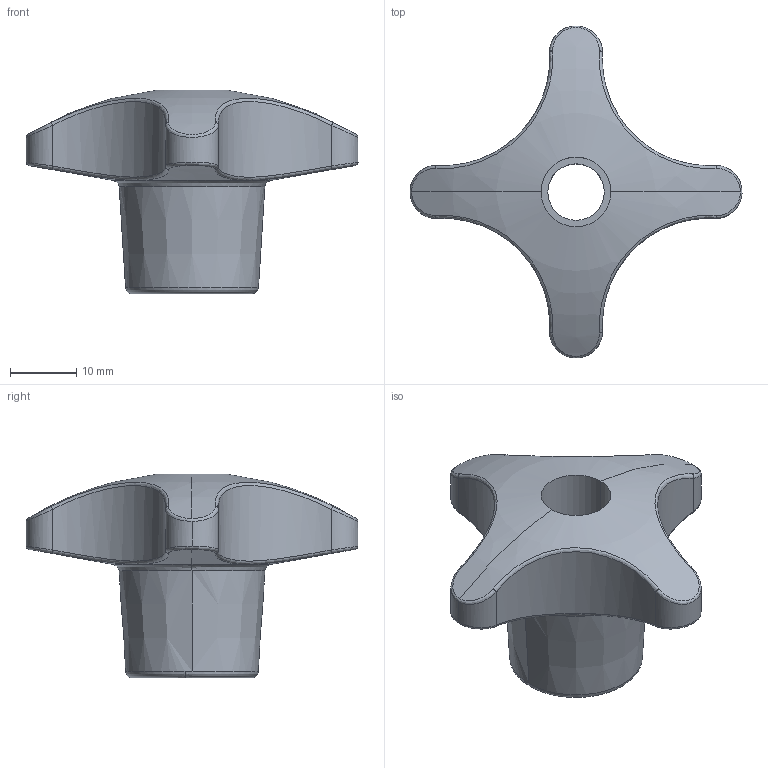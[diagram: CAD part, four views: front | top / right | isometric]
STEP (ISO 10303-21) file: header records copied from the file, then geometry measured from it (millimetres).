
FILE_DESCRIPTION (( 'STEP AP214' ), '1' );
FILE_NAME ('1121 50 401.STEP', '2010-11-26T15:50:20', ( 'Marc' ), ( '' ), 'SwSTEP 2.0', 'SolidWorks 2010', '' );
FILE_SCHEMA (( 'AUTOMOTIVE_DESIGN' ));
Length unit declared in the file: millimetre
Products named in the file (1): 1121 50 401
Bounding box: 50 x 49.99 x 30.69 mm (x, y, z)
Volume: 14044.1 mm3; surface area: 6712.6 mm2
Topology: 2 solids, 2 shells, 54 faces, 139 edges, 88 vertices
Faces by surface type: bspline 22, cylinder 21, cone 6, plane 3, torus 2
Entity records: 11461 total; most frequent: CARTESIAN_POINT 10244, ORIENTED_EDGE 278, DIRECTION 145, EDGE_CURVE 139, VERTEX_POINT 88, B_SPLINE_CURVE_WITH_KNOTS 78, AXIS2_PLACEMENT_3D 59, EDGE_LOOP 57
